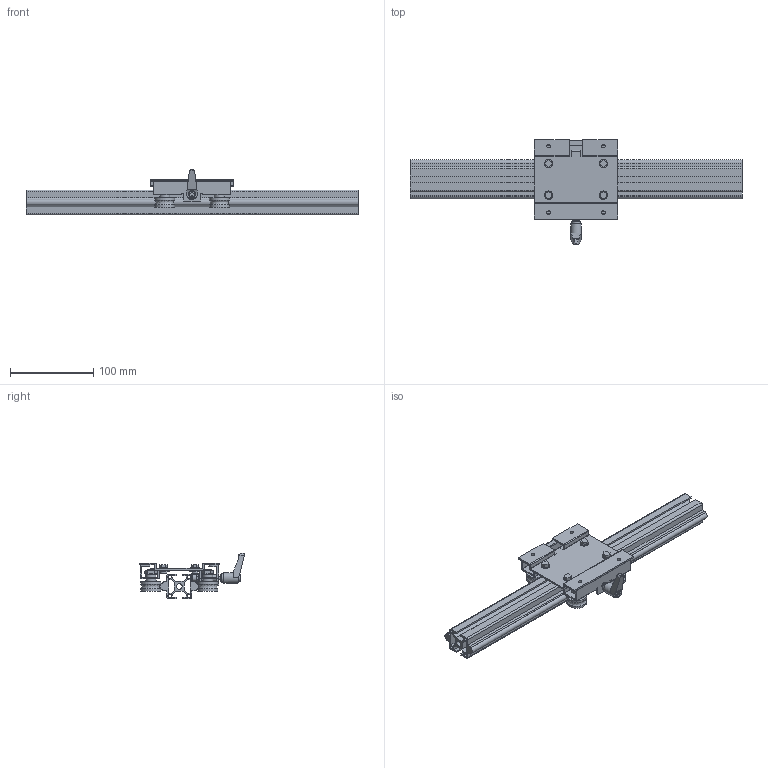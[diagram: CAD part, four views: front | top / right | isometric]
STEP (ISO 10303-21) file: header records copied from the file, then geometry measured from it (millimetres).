
FILE_DESCRIPTION((''),'2;1');
FILE_NAME('C:\Documents and Settings\土屋\My Documents\土屋移動用フォルダ\製品 (図面3D用)\LSダウンロード用図面\新型キャリッジ\step形式(ダウンロード用)\LS3030BC.stp','2018-08-03T16:11:35',('y'),(''),'Autodesk Inventor 11','Autodesk Inventor 11','');
FILE_SCHEMA(('AUTOMOTIVE_DESIGN { 1 0 10303 214 1 1 1 1 }'));
Length unit declared in the file: millimetre
Products named in the file (4): LS3030BC; LS3030BCレール; LS3030BCキャリッジ; LS3030BC用クランプ
Assembly tree (3 placements, depth 2):
  LS3030BC
    LS3030BCレール
    LS3030BCキャリッジ
    LS3030BC用クランプ
Bounding box: 400 x 126.5 x 55.2 mm (x, y, z)
Volume: 282307 mm3; surface area: 198997.2 mm2
Topology: 7 solids, 7 shells, 422 faces, 1052 edges, 674 vertices
Faces by surface type: plane 235, cylinder 98, cone 77, bspline 12
Full cylindrical faces by diameter (mm): 4 x2, 4.2 x4, 6 x1, 6.8 x1, 8 x12, 10 x5, 12 x4, 12.3 x4, 13 x1, 24 x8
Entity records: 12568 total; most frequent: CARTESIAN_POINT 2915, DIRECTION 1950, ORIENTED_EDGE 1926, EDGE_CURVE 963, AXIS2_PLACEMENT_3D 700, VERTEX_POINT 656, EDGE_LOOP 565, VECTOR 550
